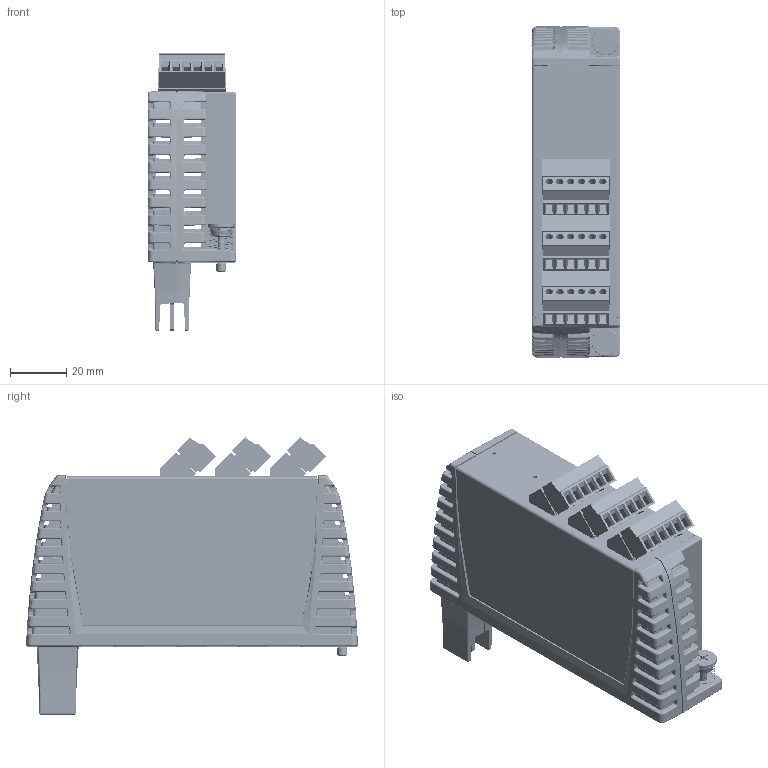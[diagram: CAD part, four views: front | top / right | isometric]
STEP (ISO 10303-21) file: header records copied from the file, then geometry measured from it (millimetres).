
FILE_DESCRIPTION (( 'STEP AP203' ), '1' );
FILE_NAME ('GMINI8,INV8,OUT4,RTD6,TC8.STEP', '2013-09-09T15:46:15', ( 'Network Administration' ), ( 'Red Lion Controls Inc.' ), 'SwSTEP 2.0', 'SolidWorks 2013', '' );
FILE_SCHEMA (( 'CONFIG_CONTROL_DESIGN' ));
Length unit declared in the file: millimetre
Products named in the file (14): 3conn_main_pcb; CV514907-wrap; 3conn_front_pcb; McMC 90402A106; 3conn_assy; McMC 90692A086; GMINI8,INV8,OUT4,RTD6,TC8; McMC 91771A143_91771A143; PEM SCBR-632-8 ZI; MODULE LABEL; CNTP06G0; CA503000_MODULE CASE, LEFT HALF; CNTP06xA; CA503100_MODULE CASE, RIGHT HALF
Assembly tree (23 placements, depth 3):
  GMINI8,INV8,OUT4,RTD6,TC8
    CA503000_MODULE CASE, LEFT HALF
    CA503100_MODULE CASE, RIGHT HALF
    CV514907-wrap
    McMC 90402A106  x2
    McMC 90692A086  x4
    McMC 91771A143_91771A143  x2
    PEM SCBR-632-8 ZI  x2
    MODULE LABEL
    3conn_assy
      CNTP06G0  x3
      CNTP06xA  x3
      3conn_main_pcb
      3conn_front_pcb
Bounding box: 31.5 x 117.84 x 98.44 mm (x, y, z)
Volume: 63822.6 mm3; surface area: 90224.4 mm2
Topology: 24 solids, 24 shells, 5643 faces, 14226 edges, 8641 vertices
Faces by surface type: plane 1963, bspline 1837, cylinder 1392, cone 394, sphere 57
Entity records: 215593 total; most frequent: CARTESIAN_POINT 123970, ORIENTED_EDGE 22046, DIRECTION 14320, EDGE_CURVE 11023, VERTEX_POINT 6634, AXIS2_PLACEMENT_3D 5091, EDGE_LOOP 4561, ADVANCED_FACE 4417
